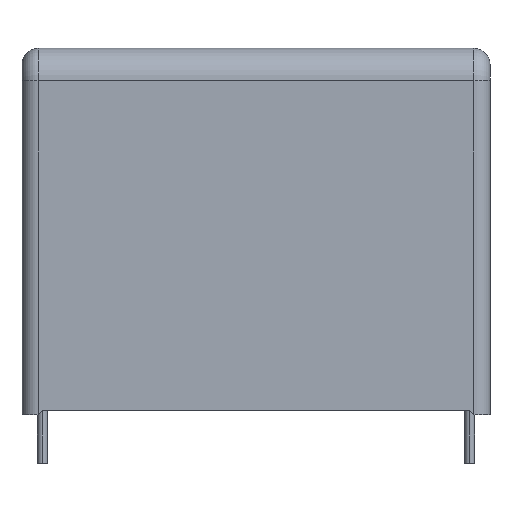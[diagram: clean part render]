
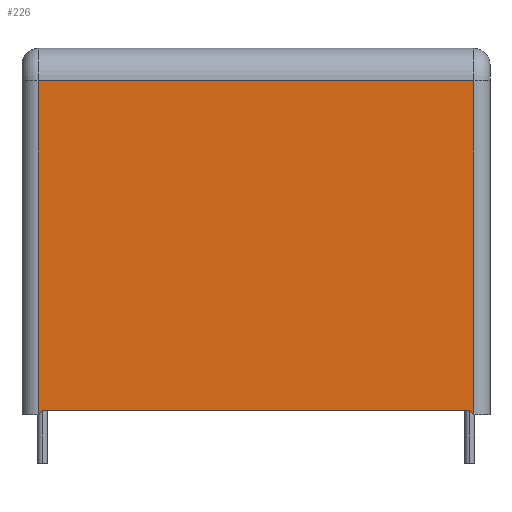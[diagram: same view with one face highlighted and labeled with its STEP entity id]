
A CAD part, top view. The second image highlights one B-rep face of the part: STEP entity #226.
In plain terms, the highlighted planar face has unit normal (0, 0, 1).
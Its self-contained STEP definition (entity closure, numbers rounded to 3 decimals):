
#41 = VECTOR ( 'NONE', #2813, 1000. ) ;
#57 = DIRECTION ( 'NONE',  ( -1., 0., 0. ) ) ;
#69 = DIRECTION ( 'NONE',  ( 0., 0., -1. ) ) ;
#88 = PLANE ( 'NONE',  #1381 ) ;
#107 = LINE ( 'NONE', #1160, #41 ) ;
#142 = CARTESIAN_POINT ( 'NONE',  ( -28.75, 45., 12.5 ) ) ;
#216 = VERTEX_POINT ( 'NONE', #611 ) ;
#226 = ADVANCED_FACE ( 'NONE', ( #4066 ), #88, .F. ) ;
#355 = EDGE_CURVE ( 'NONE', #730, #3470, #3545, .T. ) ;
#447 = CARTESIAN_POINT ( 'NONE',  ( -26.75, 41., 12.5 ) ) ;
#611 = CARTESIAN_POINT ( 'NONE',  ( 26.75, 0., 12.5 ) ) ;
#730 = VERTEX_POINT ( 'NONE', #3135 ) ;
#830 = DIRECTION ( 'NONE',  ( -1., 0., 0. ) ) ;
#846 = DIRECTION ( 'NONE',  ( -0.707, -0.707, 0. ) ) ;
#856 = DIRECTION ( 'NONE',  ( -0.707, 0.707, 0. ) ) ;
#899 = VECTOR ( 'NONE', #846, 1000. ) ;
#904 = LINE ( 'NONE', #4054, #899 ) ;
#963 = CARTESIAN_POINT ( 'NONE',  ( -26.25, 0.5, 12.5 ) ) ;
#1027 = VECTOR ( 'NONE', #3162, 1000. ) ;
#1043 = LINE ( 'NONE', #3726, #1027 ) ;
#1071 = EDGE_CURVE ( 'NONE', #216, #730, #1983, .T. ) ;
#1081 = EDGE_CURVE ( 'NONE', #3305, #2349, #1960, .T. ) ;
#1160 = CARTESIAN_POINT ( 'NONE',  ( -28.75, 41., 12.5 ) ) ;
#1381 = AXIS2_PLACEMENT_3D ( 'NONE', #142, #69, #57 ) ;
#1697 = EDGE_CURVE ( 'NONE', #216, #3457, #1043, .T. ) ;
#1916 = VECTOR ( 'NONE', #2636, 1000. ) ;
#1960 = LINE ( 'NONE', #4076, #1916 ) ;
#1970 = VECTOR ( 'NONE', #856, 1000. ) ;
#1983 = LINE ( 'NONE', #2619, #1970 ) ;
#1984 = CARTESIAN_POINT ( 'NONE',  ( -26.75, 0., 12.5 ) ) ;
#2066 = EDGE_CURVE ( 'NONE', #3470, #2349, #904, .T. ) ;
#2349 = VERTEX_POINT ( 'NONE', #1984 ) ;
#2581 = EDGE_LOOP ( 'NONE', ( #3095, #3176, #3269, #3308, #3391, #3482 ) ) ;
#2619 = CARTESIAN_POINT ( 'NONE',  ( 26.25, 0.5, 12.5 ) ) ;
#2636 = DIRECTION ( 'NONE',  ( 0., -1., 0. ) ) ;
#2813 = DIRECTION ( 'NONE',  ( -1., 0., 0. ) ) ;
#3095 = ORIENTED_EDGE ( 'NONE', *, *, #355, .F. ) ;
#3135 = CARTESIAN_POINT ( 'NONE',  ( 26.25, 0.5, 12.5 ) ) ;
#3162 = DIRECTION ( 'NONE',  ( 0., 1., 0. ) ) ;
#3176 = ORIENTED_EDGE ( 'NONE', *, *, #1071, .F. ) ;
#3269 = ORIENTED_EDGE ( 'NONE', *, *, #1697, .T. ) ;
#3305 = VERTEX_POINT ( 'NONE', #447 ) ;
#3308 = ORIENTED_EDGE ( 'NONE', *, *, #4250, .T. ) ;
#3391 = ORIENTED_EDGE ( 'NONE', *, *, #1081, .T. ) ;
#3457 = VERTEX_POINT ( 'NONE', #3806 ) ;
#3470 = VERTEX_POINT ( 'NONE', #4081 ) ;
#3482 = ORIENTED_EDGE ( 'NONE', *, *, #2066, .F. ) ;
#3545 = LINE ( 'NONE', #963, #3552 ) ;
#3552 = VECTOR ( 'NONE', #830, 1000. ) ;
#3726 = CARTESIAN_POINT ( 'NONE',  ( 26.75, 45., 12.5 ) ) ;
#3806 = CARTESIAN_POINT ( 'NONE',  ( 26.75, 41., 12.5 ) ) ;
#4054 = CARTESIAN_POINT ( 'NONE',  ( -26.75, 0., 12.5 ) ) ;
#4066 = FACE_OUTER_BOUND ( 'NONE', #2581, .T. ) ;
#4076 = CARTESIAN_POINT ( 'NONE',  ( -26.75, 45., 12.5 ) ) ;
#4081 = CARTESIAN_POINT ( 'NONE',  ( -26.25, 0.5, 12.5 ) ) ;
#4250 = EDGE_CURVE ( 'NONE', #3457, #3305, #107, .T. ) ;
